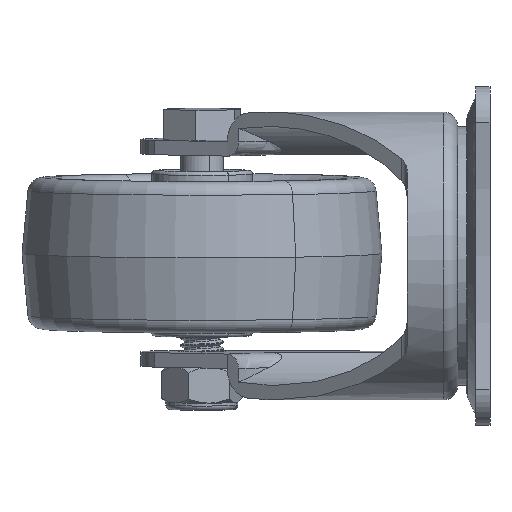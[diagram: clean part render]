
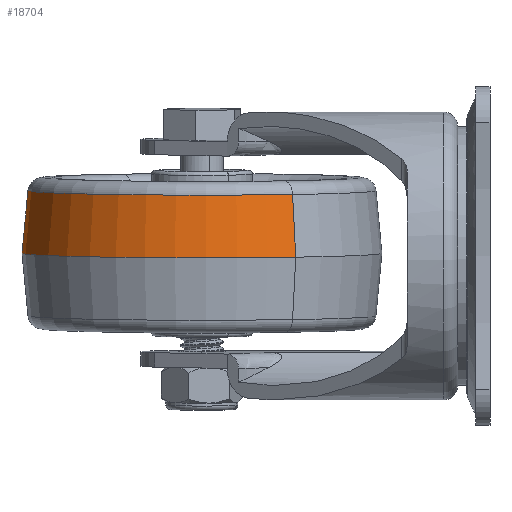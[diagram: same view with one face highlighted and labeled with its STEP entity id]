
A CAD part, left-side view. The second image highlights one B-rep face of the part: STEP entity #18704.
In plain terms, the highlighted conical face has half-angle 5.44 degrees and reference radius 25 mm.
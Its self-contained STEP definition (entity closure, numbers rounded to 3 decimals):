
#98 = EDGE_CURVE ( 'NONE', #9278, #3977, #593, .T. ) ;
#593 = CIRCLE ( 'NONE', #908, 25. ) ;
#786 = ORIENTED_EDGE ( 'NONE', *, *, #16888, .F. ) ;
#908 = AXIS2_PLACEMENT_3D ( 'NONE', #17131, #9333, #15191 ) ;
#1052 = CONICAL_SURFACE ( 'NONE', #12337, 25., 0.095 ) ;
#1784 = ORIENTED_EDGE ( 'NONE', *, *, #6945, .T. ) ;
#1941 = DIRECTION ( 'NONE',  ( 0., 0.995, -0.095 ) ) ;
#2468 = LINE ( 'NONE', #11436, #5128 ) ;
#2912 = VERTEX_POINT ( 'NONE', #4105 ) ;
#2955 = CARTESIAN_POINT ( 'NONE',  ( 0., -8.69, -24.172 ) ) ;
#3977 = VERTEX_POINT ( 'NONE', #4518 ) ;
#4105 = CARTESIAN_POINT ( 'NONE',  ( 0., -8.69, 24.172 ) ) ;
#4518 = CARTESIAN_POINT ( 'NONE',  ( 0., 0., 25. ) ) ;
#5128 = VECTOR ( 'NONE', #12695, 1000. ) ;
#5490 = VECTOR ( 'NONE', #1941, 1000. ) ;
#6352 = LINE ( 'NONE', #7774, #5490 ) ;
#6945 = EDGE_CURVE ( 'NONE', #16708, #9278, #6352, .T. ) ;
#7774 = CARTESIAN_POINT ( 'NONE',  ( 0., 0., -25. ) ) ;
#9278 = VERTEX_POINT ( 'NONE', #13040 ) ;
#9333 = DIRECTION ( 'NONE',  ( 0., -1., 0. ) ) ;
#9520 = CARTESIAN_POINT ( 'NONE',  ( 0., -8.69, 0. ) ) ;
#11436 = CARTESIAN_POINT ( 'NONE',  ( 0., 0., 25. ) ) ;
#12337 = AXIS2_PLACEMENT_3D ( 'NONE', #15234, #12353, #12559 ) ;
#12353 = DIRECTION ( 'NONE',  ( 0., 1., 0. ) ) ;
#12559 = DIRECTION ( 'NONE',  ( 0., 0., -1. ) ) ;
#12695 = DIRECTION ( 'NONE',  ( 0., 0.995, 0.095 ) ) ;
#13040 = CARTESIAN_POINT ( 'NONE',  ( 0., 0., -25. ) ) ;
#13086 = ORIENTED_EDGE ( 'NONE', *, *, #14549, .T. ) ;
#13319 = CIRCLE ( 'NONE', #18862, 24.172 ) ;
#14549 = EDGE_CURVE ( 'NONE', #2912, #16708, #13319, .T. ) ;
#15191 = DIRECTION ( 'NONE',  ( 0., 0., -1. ) ) ;
#15234 = CARTESIAN_POINT ( 'NONE',  ( 0., 0., 0. ) ) ;
#15367 = DIRECTION ( 'NONE',  ( 0., 1., 0. ) ) ;
#15664 = DIRECTION ( 'NONE',  ( 0., 0., -1. ) ) ;
#16689 = EDGE_LOOP ( 'NONE', ( #786, #13086, #1784, #18145 ) ) ;
#16708 = VERTEX_POINT ( 'NONE', #2955 ) ;
#16887 = FACE_OUTER_BOUND ( 'NONE', #16689, .T. ) ;
#16888 = EDGE_CURVE ( 'NONE', #2912, #3977, #2468, .T. ) ;
#17131 = CARTESIAN_POINT ( 'NONE',  ( 0., 0., 0. ) ) ;
#18145 = ORIENTED_EDGE ( 'NONE', *, *, #98, .T. ) ;
#18704 = ADVANCED_FACE ( 'NONE', ( #16887 ), #1052, .T. ) ;
#18862 = AXIS2_PLACEMENT_3D ( 'NONE', #9520, #15367, #15664 ) ;
